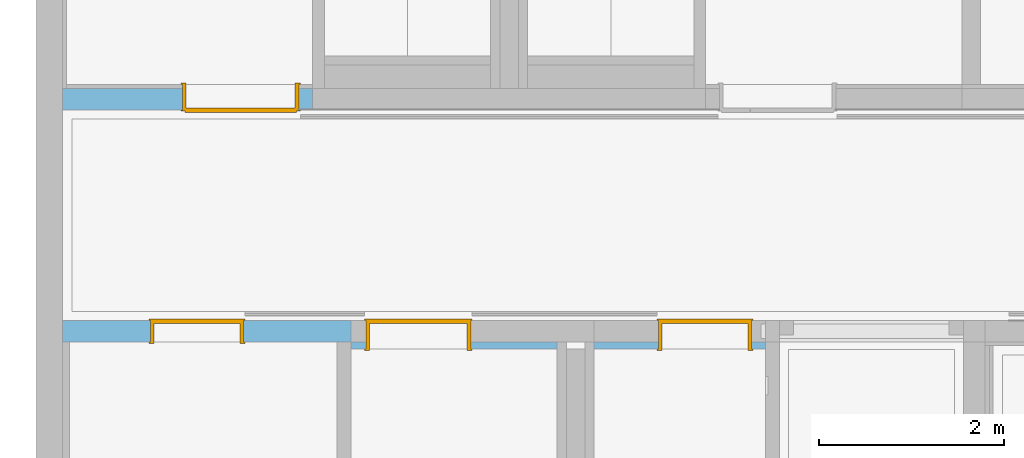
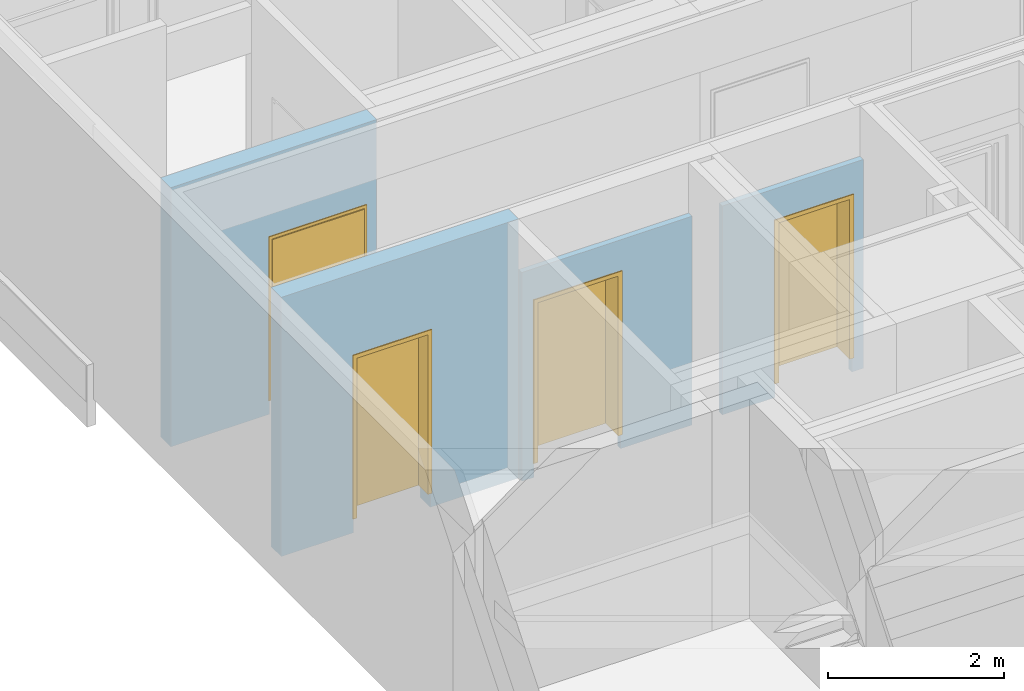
# One storey, part 79 of 207: 4 doors, 4 openings, plus 4 elements that do not belong to this part.
"""IFC4 building model written with IfcOpenShell, lengths in metres."""

from ifc_helpers import new_model, entity, si_unit, converted_unit, derived_unit, frame, frame_2d, origin, origin_with_axes, place, context, subcontext, project, spatial, polyline, rectangle, outline, extrude, faceted_brep, source, transform, mapped, material, type_object, element, fill, save


model = new_model("IFC4")

# Units and contexts
model_context = context("Model", 3, precision=1e-05, world=origin())
body_context = subcontext(model_context, "Body", "Model", "MODEL_VIEW")
ifc_project = project(units=[si_unit("LENGTHUNIT", "METRE"), si_unit("AREAUNIT", "SQUARE_METRE"), si_unit("VOLUMEUNIT", "CUBIC_METRE"), si_unit("MASSUNIT", "GRAM", prefix="KILO"), converted_unit("PLANEANGLEUNIT", "DEGREE", entity("IfcPlaneAngleMeasure", 0.0174532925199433), si_unit("PLANEANGLEUNIT", "RADIAN"), dimensions=[0, 0, 0, 0, 0, 0, 0]), derived_unit("THERMALTRANSMITTANCEUNIT", [(si_unit("POWERUNIT", "WATT"), 1), (si_unit("THERMODYNAMICTEMPERATUREUNIT", "KELVIN"), -1), (si_unit("LENGTHUNIT", "METRE"), -2)]), derived_unit("VOLUMETRICFLOWRATEUNIT", [(si_unit("LENGTHUNIT", "METRE"), 3), (converted_unit("TIMEUNIT", "hour", entity("IfcTimeMeasure", 3600.0), si_unit("TIMEUNIT", "SECOND"), dimensions=[0, 0, 1, 0, 0, 0, 0]), -1), (si_unit("LENGTHUNIT", "METRE"), -1)])], contexts=[model_context])

# Site, building, storey
site_placement = place(None, origin())
site = spatial("IfcSite", under=ifc_project, at=site_placement, Name="Psychiatrie Neubau Wunstorf", CompositionType="ELEMENT")
building_placement = place(site_placement, origin())
building = spatial("IfcBuilding", under=site, at=building_placement, Name="Neubau H2 Stationsgebäude", CompositionType="ELEMENT")
storey_placement = place(building_placement, frame((0.0, 0.0, -0.2)))
storey = spatial("IfcBuildingStorey", under=building, at=storey_placement, Name="H2 Ebene 0", CompositionType="ELEMENT", Elevation=-0.2)

# Wall, opening, door
ifc_material_1 = material(Name="WI-HW 60")
wall_1_placement = place(storey_placement, frame((0.169, 21.604, 0.0)))
wall_1 = element("IfcWall", 1, at=wall_1_placement, inside=storey, material=ifc_material_1, context=body_context, shape_type="SweptSolid", body=[
    extrude(rectangle(XDim=3.12000622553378, YDim=0.232, at=frame_2d((1.56000311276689, 0.116), x_axis=(1.0, 0.0))), origin_with_axes(), (0.0, 0.0, 1.0), 3.6),
])
opening_1_placement = place(wall_1_placement, frame((0.948454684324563, 0.0, 0.0), z_axis=(0.0, 1.0, 0.0), x_axis=(0.0, 0.0, 1.0)))
opening_1 = element("IfcOpeningElement", 2, at=opening_1_placement, cuts=wall_1, Name="SMT", ObjectType="Opening", context=body_context, shape_type="SweptSolid", body=[
    extrude(outline(polyline([(2.46, 1.01), (2.46, 0.0), (0.0, 0.0), (0.0, 1.01), (2.46, 1.01)])), origin_with_axes(), (0.0, 0.0, 1.0), 0.232),
])
ifc_material_2 = material(Name="TI-1F-UZ-ZK")
door_type_1 = type_object("IfcDoorType", Name="SMT", OperationType="SINGLE_SWING_RIGHT", ParameterTakesPrecedence=False, PredefinedType="DOOR")
shared_shape_1 = source(origin_with_axes(), body_context, "Body", "Brep", [
    faceted_brep([(0.0, -0.015, 2.46), (0.04, -0.015, 2.46), (0.04, -0.015, 0.2), (0.0, -0.015, 0.2), (0.0, 0.247, 0.2), (0.04, 0.247, 0.2), (0.04, 0.247, 2.46), (0.0, 0.247, 2.46)], [[[0, 1, 2, 3]], [[4, 5, 6, 7]], [[3, 4, 7, 0]], [[2, 5, 4, 3]], [[1, 6, 5, 2]], [[0, 7, 6, 1]]], orient=[[False], [False], [False], [False], [False], [False]]),
    faceted_brep([(0.0, -0.015, 2.475), (0.0, -0.015, 0.2), (-0.015, -0.015, 0.2), (-0.015, -0.015, 2.475), (0.0, 0.0, 0.2), (0.0, 0.0, 2.475), (-0.015, 0.0, 2.475), (-0.015, 0.0, 0.2)], [[[0, 1, 2, 3]], [[4, 5, 6, 7]], [[1, 0, 5, 4]], [[2, 1, 4, 7]], [[3, 2, 7, 6]], [[0, 3, 6, 5]]], orient=[[False], [False], [False], [False], [False], [False]]),
    faceted_brep([(0.0, 0.232, 2.475), (0.0, 0.232, 0.2), (-0.015, 0.232, 0.2), (-0.015, 0.232, 2.475), (0.0, 0.247, 0.2), (0.0, 0.247, 2.475), (-0.015, 0.247, 2.475), (-0.015, 0.247, 0.2)], [[[0, 1, 2, 3]], [[4, 5, 6, 7]], [[1, 0, 5, 4]], [[2, 1, 4, 7]], [[3, 2, 7, 6]], [[0, 3, 6, 5]]], orient=[[False], [False], [False], [False], [False], [False]]),
    faceted_brep([(0.97, -0.015, 2.46), (1.01, -0.015, 2.46), (1.01, -0.015, 0.2), (0.97, -0.015, 0.2), (0.97, 0.247, 0.2), (1.01, 0.247, 0.2), (1.01, 0.247, 2.46), (0.97, 0.247, 2.46)], [[[0, 1, 2, 3]], [[4, 5, 6, 7]], [[3, 4, 7, 0]], [[2, 5, 4, 3]], [[1, 6, 5, 2]], [[0, 7, 6, 1]]], orient=[[False], [False], [False], [False], [False], [False]]),
    faceted_brep([(1.01, -0.015, 2.475), (1.025, -0.015, 2.475), (1.025, -0.015, 0.2), (1.01, -0.015, 0.2), (1.01, 0.0, 0.2), (1.025, 0.0, 0.2), (1.025, 0.0, 2.475), (1.01, 0.0, 2.475)], [[[0, 1, 2, 3]], [[4, 5, 6, 7]], [[3, 4, 7, 0]], [[2, 5, 4, 3]], [[1, 6, 5, 2]], [[0, 7, 6, 1]]], orient=[[False], [False], [False], [False], [False], [False]]),
    faceted_brep([(1.01, 0.232, 2.475), (1.025, 0.232, 2.475), (1.025, 0.232, 0.2), (1.01, 0.232, 0.2), (1.01, 0.247, 0.2), (1.025, 0.247, 0.2), (1.025, 0.247, 2.475), (1.01, 0.247, 2.475)], [[[0, 1, 2, 3]], [[4, 5, 6, 7]], [[3, 4, 7, 0]], [[2, 5, 4, 3]], [[1, 6, 5, 2]], [[0, 7, 6, 1]]], orient=[[False], [False], [False], [False], [False], [False]]),
    faceted_brep([(0.04, -0.015, 2.46), (0.97, -0.015, 2.46), (0.97, -0.015, 2.42), (0.04, -0.015, 2.42), (0.04, 0.247, 2.42), (0.97, 0.247, 2.42), (0.97, 0.247, 2.46), (0.04, 0.247, 2.46)], [[[0, 1, 2, 3]], [[4, 5, 6, 7]], [[3, 4, 7, 0]], [[2, 5, 4, 3]], [[1, 6, 5, 2]], [[0, 7, 6, 1]]], orient=[[False], [False], [False], [False], [False], [False]]),
    faceted_brep([(0.0, -0.015, 2.475), (1.01, -0.015, 2.475), (1.01, -0.015, 2.46), (0.0, -0.015, 2.46), (0.0, 0.0, 2.46), (1.01, 0.0, 2.46), (1.01, 0.0, 2.475), (0.0, 0.0, 2.475)], [[[0, 1, 2, 3]], [[4, 5, 6, 7]], [[3, 4, 7, 0]], [[2, 5, 4, 3]], [[1, 6, 5, 2]], [[0, 7, 6, 1]]], orient=[[False], [False], [False], [False], [False], [False]]),
    faceted_brep([(0.0, 0.232, 2.475), (1.01, 0.232, 2.475), (1.01, 0.232, 2.46), (0.0, 0.232, 2.46), (0.0, 0.247, 2.46), (1.01, 0.247, 2.46), (1.01, 0.247, 2.475), (0.0, 0.247, 2.475)], [[[0, 1, 2, 3]], [[4, 5, 6, 7]], [[3, 4, 7, 0]], [[2, 5, 4, 3]], [[1, 6, 5, 2]], [[0, 7, 6, 1]]], orient=[[False], [False], [False], [False], [False], [False]]),
    faceted_brep([(0.025, 0.198, 2.435), (0.985, 0.198, 2.435), (0.985, 0.198, 0.2), (0.025, 0.198, 0.2), (0.025, 0.248, 0.2), (0.985, 0.248, 0.2), (0.985, 0.248, 2.435), (0.025, 0.248, 2.435)], [[[0, 1, 2, 3]], [[4, 5, 6, 7]], [[3, 4, 7, 0]], [[2, 5, 4, 3]], [[1, 6, 5, 2]], [[0, 7, 6, 1]]], orient=[[False], [False], [False], [False], [False], [False]]),
])
door_1_placement = place(opening_1_placement, frame((0.0, 0.0, 0.0), z_axis=(1.0, 0.0, 0.0), x_axis=(0.0, 1.0, 0.0)))
door_1 = element("IfcDoor", 3, at=door_1_placement, inside=storey, type_object=door_type_1, material=ifc_material_2, Name="SMT", OverallHeight=2.46, OverallWidth=1.01, context=body_context, shape_type="MappedRepresentation", body=[
    mapped(shared_shape_1, transform((0.0, 0.0, 0.0), x_axis=(1.0, 0.0, 0.0), y_axis=(0.0, 1.0, 0.0), z_axis=(0.0, 0.0, 1.0), scale=1.0)),
])
fill(opening_1, door_1)

ifc_material_3 = material(Name="WI-HW 60")
wall_2_placement = place(storey_placement, frame((0.169, 24.1175, 0.0), z_axis=(0.0, 0.0, 1.0), x_axis=(1.0, 2.6888239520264e-15, 0.0)))
wall_2 = element("IfcWall", 4, at=wall_2_placement, inside=storey, material=ifc_material_3, context=body_context, shape_type="SweptSolid", body=[
    extrude(rectangle(XDim=2.706, YDim=0.232, at=frame_2d((1.353, 0.116), x_axis=(1.0, 0.0))), origin_with_axes(), (0.0, 0.0, 1.0), 3.6),
])
opening_2_placement = place(wall_2_placement, frame((1.296, 0.0, 0.0), z_axis=(2.940176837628e-15, 1.0, 0.0), x_axis=(0.0, 0.0, 1.0)))
opening_2 = element("IfcOpeningElement", 5, at=opening_2_placement, cuts=wall_2, Name="Türöffnung", ObjectType="Opening", context=body_context, shape_type="SweptSolid", body=[
    extrude(outline(polyline([(2.46, 1.26), (2.46, 0.0), (0.0, 0.0), (0.0, 1.26), (2.46, 1.26)])), origin_with_axes(), (0.0, 0.0, 1.0), 0.232),
])
ifc_material_4 = material(Name="TI-2F-UZ-D")
door_type_2 = type_object("IfcDoorType", Name="SMT", OperationType="DOUBLE_DOOR_SINGLE_SWING", ParameterTakesPrecedence=False, PredefinedType="DOOR")
shared_shape_2 = source(origin_with_axes(), body_context, "Body", "Brep", [
    faceted_brep([(1.26, -0.0150000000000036, 2.46), (1.26, -0.0150000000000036, 0.2), (1.22, -0.0150000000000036, 0.2), (1.22, -0.0150000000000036, 2.46), (1.26, 0.287, 0.2), (1.26, 0.287, 2.46), (1.22, 0.287, 2.46), (1.22, 0.287, 0.2)], [[[0, 1, 2, 3]], [[4, 5, 6, 7]], [[1, 0, 5, 4]], [[2, 1, 4, 7]], [[3, 2, 7, 6]], [[0, 3, 6, 5]]], orient=[[False], [False], [False], [False], [False], [False]]),
    faceted_brep([(1.26, -0.0150000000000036, 2.475), (1.275, -0.0150000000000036, 2.475), (1.275, -0.0150000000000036, 0.2), (1.26, -0.0150000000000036, 0.2), (1.26, 0.0, 0.2), (1.275, 0.0, 0.2), (1.275, 0.0, 2.475), (1.26, 0.0, 2.475)], [[[0, 1, 2, 3]], [[4, 5, 6, 7]], [[3, 4, 7, 0]], [[2, 5, 4, 3]], [[1, 6, 5, 2]], [[0, 7, 6, 1]]], orient=[[False], [False], [False], [False], [False], [False]]),
    faceted_brep([(1.26, 0.272, 2.475), (1.275, 0.272, 2.475), (1.275, 0.272, 0.2), (1.26, 0.272, 0.2), (1.26, 0.287, 0.2), (1.275, 0.287, 0.2), (1.275, 0.287, 2.475), (1.26, 0.287, 2.475)], [[[0, 1, 2, 3]], [[4, 5, 6, 7]], [[3, 4, 7, 0]], [[2, 5, 4, 3]], [[1, 6, 5, 2]], [[0, 7, 6, 1]]], orient=[[False], [False], [False], [False], [False], [False]]),
    faceted_brep([(0.04, -0.015, 2.46), (0.04, -0.015, 0.2), (0.0, -0.015, 0.2), (0.0, -0.015, 2.46), (0.0400000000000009, 0.287000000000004, 0.2), (0.0400000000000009, 0.287000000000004, 2.46), (0.0, 0.287000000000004, 2.46), (0.0, 0.287000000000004, 0.2)], [[[0, 1, 2, 3]], [[4, 5, 6, 7]], [[1, 0, 5, 4]], [[2, 1, 4, 7]], [[3, 2, 7, 6]], [[0, 3, 6, 5]]], orient=[[False], [False], [False], [False], [False], [False]]),
    faceted_brep([(0.0, -0.015, 2.475), (0.0, -0.015, 0.2), (-0.015, -0.015, 0.2), (-0.015, -0.015, 2.475), (0.0, 0.0, 0.2), (0.0, 0.0, 2.475), (-0.015, 0.0, 2.475), (-0.015, 0.0, 0.2)], [[[0, 1, 2, 3]], [[4, 5, 6, 7]], [[1, 0, 5, 4]], [[2, 1, 4, 7]], [[3, 2, 7, 6]], [[0, 3, 6, 5]]], orient=[[False], [False], [False], [False], [False], [False]]),
    faceted_brep([(0.0, 0.272000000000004, 2.475), (0.0, 0.272000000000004, 0.2), (-0.0149999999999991, 0.272000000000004, 0.2), (-0.0149999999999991, 0.272000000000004, 2.475), (0.0, 0.287000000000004, 0.2), (0.0, 0.287000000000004, 2.475), (-0.0149999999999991, 0.287000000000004, 2.475), (-0.0149999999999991, 0.287000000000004, 0.2)], [[[0, 1, 2, 3]], [[4, 5, 6, 7]], [[1, 0, 5, 4]], [[2, 1, 4, 7]], [[3, 2, 7, 6]], [[0, 3, 6, 5]]], orient=[[False], [False], [False], [False], [False], [False]]),
    faceted_brep([(1.22, -0.0150000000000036, 2.46), (1.22, -0.0150000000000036, 2.42), (0.04, -0.015, 2.42), (0.04, -0.015, 2.46), (1.22, 0.287, 2.42), (1.22, 0.287, 2.46), (0.0400000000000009, 0.287000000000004, 2.46), (0.0400000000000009, 0.287000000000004, 2.42)], [[[0, 1, 2, 3]], [[4, 5, 6, 7]], [[1, 0, 5, 4]], [[2, 1, 4, 7]], [[3, 2, 7, 6]], [[0, 3, 6, 5]]], orient=[[False], [False], [False], [False], [False], [False]]),
    faceted_brep([(1.26, -0.0150000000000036, 2.475), (1.26, -0.0150000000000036, 2.46), (0.0, -0.015, 2.46), (0.0, -0.015, 2.475), (1.26, 0.0, 2.46), (1.26, 0.0, 2.475), (0.0, 0.0, 2.475), (0.0, 0.0, 2.46)], [[[0, 1, 2, 3]], [[4, 5, 6, 7]], [[1, 0, 5, 4]], [[2, 1, 4, 7]], [[3, 2, 7, 6]], [[0, 3, 6, 5]]], orient=[[False], [False], [False], [False], [False], [False]]),
    faceted_brep([(1.26, 0.272, 2.475), (1.26, 0.272, 2.46), (0.0, 0.272000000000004, 2.46), (0.0, 0.272000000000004, 2.475), (1.26, 0.287, 2.46), (1.26, 0.287, 2.475), (0.0, 0.287000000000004, 2.475), (0.0, 0.287000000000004, 2.46)], [[[0, 1, 2, 3]], [[4, 5, 6, 7]], [[1, 0, 5, 4]], [[2, 1, 4, 7]], [[3, 2, 7, 6]], [[0, 3, 6, 5]]], orient=[[False], [False], [False], [False], [False], [False]]),
    faceted_brep([(1.235, 0.252, 2.435), (1.235, 0.252, 0.2), (0.335000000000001, 0.252000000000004, 0.2), (0.335000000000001, 0.252000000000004, 2.435), (1.235, 0.302, 0.2), (1.235, 0.302, 2.435), (0.335000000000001, 0.302000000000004, 2.435), (0.335000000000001, 0.302000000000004, 0.2)], [[[0, 1, 2, 3]], [[4, 5, 6, 7]], [[1, 0, 5, 4]], [[2, 1, 4, 7]], [[3, 2, 7, 6]], [[0, 3, 6, 5]]], orient=[[False], [False], [False], [False], [False], [False]]),
    faceted_brep([(0.334000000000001, 0.252000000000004, 2.435), (0.334000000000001, 0.252000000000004, 0.2), (0.0250000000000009, 0.252000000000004, 0.2), (0.0250000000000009, 0.252000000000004, 2.435), (0.334000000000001, 0.302000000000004, 0.2), (0.334000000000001, 0.302000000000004, 2.435), (0.0250000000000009, 0.302000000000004, 2.435), (0.0250000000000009, 0.302000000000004, 0.2)], [[[0, 1, 2, 3]], [[4, 5, 6, 7]], [[1, 0, 5, 4]], [[2, 1, 4, 7]], [[3, 2, 7, 6]], [[0, 3, 6, 5]]], orient=[[False], [False], [False], [False], [False], [False]]),
])
door_2_placement = place(opening_2_placement, frame((0.0, 1.26, 0.272000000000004), z_axis=(1.0, 0.0, 0.0), x_axis=(0.0, -1.0, -3.13863765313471e-15)))
door_2 = element("IfcDoor", 6, at=door_2_placement, inside=storey, type_object=door_type_2, material=ifc_material_4, Name="SMT", OverallHeight=2.46, OverallWidth=1.26, context=body_context, shape_type="MappedRepresentation", body=[
    mapped(shared_shape_2, transform((0.0, 0.0, 0.0), x_axis=(1.0, 0.0, 0.0), y_axis=(0.0, 1.0, 0.0), z_axis=(0.0, 0.0, 1.0), scale=1.0)),
])
fill(opening_2, door_2)

ifc_material_5 = material(Name="WI-LB")
wall_3_placement = place(storey_placement, frame((3.28900622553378, 21.529, 0.0)))
wall_3 = element("IfcWall", 7, at=wall_3_placement, inside=storey, material=ifc_material_5, context=body_context, shape_type="SweptSolid", body=[
    extrude(rectangle(XDim=2.23150193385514, YDim=0.075, at=frame_2d((1.11575096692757, 0.0375), x_axis=(1.0, 0.0))), origin_with_axes(), (0.0, 0.0, 1.0), 2.9),
])
opening_3_placement = place(wall_3_placement, frame((0.161, 0.0, 0.0), z_axis=(0.0, 1.0, 0.0), x_axis=(0.0, 0.0, 1.0)))
opening_3 = element("IfcOpeningElement", 8, at=opening_3_placement, cuts=wall_3, Name="Türöffnung", ObjectType="Opening", context=body_context, shape_type="SweptSolid", body=[
    extrude(outline(polyline([(2.46, 1.135), (2.46, 0.0), (0.0, 0.0), (0.0, 1.135), (2.46, 1.135)])), origin_with_axes(), (0.0, 0.0, 1.0), 0.075),
])
ifc_material_6 = material(Name="TI-1F-UZ-ZK")
door_type_3 = type_object("IfcDoorType", Name="SMT", OperationType="SINGLE_SWING_RIGHT", ParameterTakesPrecedence=False, PredefinedType="DOOR")
shared_shape_3 = source(origin_with_axes(), body_context, "Body", "Brep", [
    faceted_brep([(0.0, -0.015, 2.46), (0.04, -0.015, 2.46), (0.04, -0.015, 0.2), (0.0, -0.015, 0.2), (0.0, 0.322, 0.2), (0.04, 0.322, 0.2), (0.04, 0.322, 2.46), (0.0, 0.322, 2.46)], [[[0, 1, 2, 3]], [[4, 5, 6, 7]], [[3, 4, 7, 0]], [[2, 5, 4, 3]], [[1, 6, 5, 2]], [[0, 7, 6, 1]]], orient=[[False], [False], [False], [False], [False], [False]]),
    faceted_brep([(0.0, -0.015, 2.475), (0.0, -0.015, 0.2), (-0.015, -0.015, 0.2), (-0.015, -0.015, 2.475), (0.0, 0.0, 0.2), (0.0, 0.0, 2.475), (-0.015, 0.0, 2.475), (-0.015, 0.0, 0.2)], [[[0, 1, 2, 3]], [[4, 5, 6, 7]], [[1, 0, 5, 4]], [[2, 1, 4, 7]], [[3, 2, 7, 6]], [[0, 3, 6, 5]]], orient=[[False], [False], [False], [False], [False], [False]]),
    faceted_brep([(0.0, 0.307, 2.475), (0.0, 0.307, 0.2), (-0.015, 0.307, 0.2), (-0.015, 0.307, 2.475), (0.0, 0.322, 0.2), (0.0, 0.322, 2.475), (-0.015, 0.322, 2.475), (-0.015, 0.322, 0.2)], [[[0, 1, 2, 3]], [[4, 5, 6, 7]], [[1, 0, 5, 4]], [[2, 1, 4, 7]], [[3, 2, 7, 6]], [[0, 3, 6, 5]]], orient=[[False], [False], [False], [False], [False], [False]]),
    faceted_brep([(1.095, -0.015, 2.46), (1.135, -0.015, 2.46), (1.135, -0.015, 0.2), (1.095, -0.015, 0.2), (1.095, 0.322, 0.2), (1.135, 0.322, 0.2), (1.135, 0.322, 2.46), (1.095, 0.322, 2.46)], [[[0, 1, 2, 3]], [[4, 5, 6, 7]], [[3, 4, 7, 0]], [[2, 5, 4, 3]], [[1, 6, 5, 2]], [[0, 7, 6, 1]]], orient=[[False], [False], [False], [False], [False], [False]]),
    faceted_brep([(1.135, -0.015, 2.475), (1.15, -0.015, 2.475), (1.15, -0.015, 0.2), (1.135, -0.015, 0.2), (1.135, 0.0, 0.2), (1.15, 0.0, 0.2), (1.15, 0.0, 2.475), (1.135, 0.0, 2.475)], [[[0, 1, 2, 3]], [[4, 5, 6, 7]], [[3, 4, 7, 0]], [[2, 5, 4, 3]], [[1, 6, 5, 2]], [[0, 7, 6, 1]]], orient=[[False], [False], [False], [False], [False], [False]]),
    faceted_brep([(1.135, 0.307, 2.475), (1.15, 0.307, 2.475), (1.15, 0.307, 0.2), (1.135, 0.307, 0.2), (1.135, 0.322, 0.2), (1.15, 0.322, 0.2), (1.15, 0.322, 2.475), (1.135, 0.322, 2.475)], [[[0, 1, 2, 3]], [[4, 5, 6, 7]], [[3, 4, 7, 0]], [[2, 5, 4, 3]], [[1, 6, 5, 2]], [[0, 7, 6, 1]]], orient=[[False], [False], [False], [False], [False], [False]]),
    faceted_brep([(0.04, -0.015, 2.46), (1.095, -0.015, 2.46), (1.095, -0.015, 2.42), (0.04, -0.015, 2.42), (0.04, 0.322, 2.42), (1.095, 0.322, 2.42), (1.095, 0.322, 2.46), (0.04, 0.322, 2.46)], [[[0, 1, 2, 3]], [[4, 5, 6, 7]], [[3, 4, 7, 0]], [[2, 5, 4, 3]], [[1, 6, 5, 2]], [[0, 7, 6, 1]]], orient=[[False], [False], [False], [False], [False], [False]]),
    faceted_brep([(0.0, -0.015, 2.475), (1.135, -0.015, 2.475), (1.135, -0.015, 2.46), (0.0, -0.015, 2.46), (0.0, 0.0, 2.46), (1.135, 0.0, 2.46), (1.135, 0.0, 2.475), (0.0, 0.0, 2.475)], [[[0, 1, 2, 3]], [[4, 5, 6, 7]], [[3, 4, 7, 0]], [[2, 5, 4, 3]], [[1, 6, 5, 2]], [[0, 7, 6, 1]]], orient=[[False], [False], [False], [False], [False], [False]]),
    faceted_brep([(0.0, 0.307, 2.475), (1.135, 0.307, 2.475), (1.135, 0.307, 2.46), (0.0, 0.307, 2.46), (0.0, 0.322, 2.46), (1.135, 0.322, 2.46), (1.135, 0.322, 2.475), (0.0, 0.322, 2.475)], [[[0, 1, 2, 3]], [[4, 5, 6, 7]], [[3, 4, 7, 0]], [[2, 5, 4, 3]], [[1, 6, 5, 2]], [[0, 7, 6, 1]]], orient=[[False], [False], [False], [False], [False], [False]]),
    faceted_brep([(0.025, 0.273, 2.435), (1.11, 0.273, 2.435), (1.11, 0.273, 0.2), (0.025, 0.273, 0.2), (0.025, 0.323, 0.2), (1.11, 0.323, 0.2), (1.11, 0.323, 2.435), (0.025, 0.323, 2.435)], [[[0, 1, 2, 3]], [[4, 5, 6, 7]], [[3, 4, 7, 0]], [[2, 5, 4, 3]], [[1, 6, 5, 2]], [[0, 7, 6, 1]]], orient=[[False], [False], [False], [False], [False], [False]]),
])
door_3_placement = place(opening_3_placement, frame((0.0, 0.0, 0.0), z_axis=(1.0, 0.0, 0.0), x_axis=(0.0, 1.0, 0.0)))
door_3 = element("IfcDoor", 9, at=door_3_placement, inside=storey, type_object=door_type_3, material=ifc_material_6, Name="SMT", OverallHeight=2.46, OverallWidth=1.135, context=body_context, shape_type="MappedRepresentation", body=[
    mapped(shared_shape_3, transform((0.0, 0.0, 0.0), x_axis=(1.0, 0.0, 0.0), y_axis=(0.0, 1.0, 0.0), z_axis=(0.0, 0.0, 1.0), scale=1.0)),
])
fill(opening_3, door_3)

ifc_material_7 = material(Name="WI-LB")
wall_4_placement = place(storey_placement, frame((5.92050815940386, 21.529, 0.0)))
wall_4 = element("IfcWall", 10, at=wall_4_placement, inside=storey, material=ifc_material_7, context=body_context, shape_type="SweptSolid", body=[
    extrude(rectangle(XDim=1.85448534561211, YDim=0.075, at=frame_2d((0.927242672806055, 0.0375), x_axis=(1.0, 0.0))), origin_with_axes(), (0.0, 0.0, 1.0), 2.9),
])
opening_4_placement = place(wall_4_placement, frame((0.694485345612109, 0.0, 0.0), z_axis=(0.0, 1.0, 0.0), x_axis=(0.0, 0.0, 1.0)))
opening_4 = element("IfcOpeningElement", 11, at=opening_4_placement, cuts=wall_4, Name="Türöffnung", ObjectType="Opening", context=body_context, shape_type="SweptSolid", body=[
    extrude(outline(polyline([(2.46, 1.01), (2.46, 0.0), (0.0, 0.0), (0.0, 1.01), (2.46, 1.01)])), origin_with_axes(), (0.0, 0.0, 1.0), 0.075),
])
ifc_material_8 = material(Name="TI-1F-UZ-ZK")
door_type_4 = type_object("IfcDoorType", Name="SMT", OperationType="SINGLE_SWING_RIGHT", ParameterTakesPrecedence=False, PredefinedType="DOOR")
shared_shape_4 = source(origin_with_axes(), body_context, "Body", "Brep", [
    faceted_brep([(1.01, -0.015, 2.46), (1.01, -0.015, 0.2), (0.97, -0.015, 0.2), (0.97, -0.015, 2.46), (1.01, 0.322, 0.2), (1.01, 0.322, 2.46), (0.97, 0.322, 2.46), (0.97, 0.322, 0.2)], [[[0, 1, 2, 3]], [[4, 5, 6, 7]], [[1, 0, 5, 4]], [[2, 1, 4, 7]], [[3, 2, 7, 6]], [[0, 3, 6, 5]]], orient=[[False], [False], [False], [False], [False], [False]]),
    faceted_brep([(1.01, -0.015, 2.475), (1.025, -0.015, 2.475), (1.025, -0.015, 0.2), (1.01, -0.015, 0.2), (1.01, 0.0, 0.2), (1.025, 0.0, 0.2), (1.025, 0.0, 2.475), (1.01, 0.0, 2.475)], [[[0, 1, 2, 3]], [[4, 5, 6, 7]], [[3, 4, 7, 0]], [[2, 5, 4, 3]], [[1, 6, 5, 2]], [[0, 7, 6, 1]]], orient=[[False], [False], [False], [False], [False], [False]]),
    faceted_brep([(1.01, 0.307, 2.475), (1.025, 0.307, 2.475), (1.025, 0.307, 0.2), (1.01, 0.307, 0.2), (1.01, 0.322, 0.2), (1.025, 0.322, 0.2), (1.025, 0.322, 2.475), (1.01, 0.322, 2.475)], [[[0, 1, 2, 3]], [[4, 5, 6, 7]], [[3, 4, 7, 0]], [[2, 5, 4, 3]], [[1, 6, 5, 2]], [[0, 7, 6, 1]]], orient=[[False], [False], [False], [False], [False], [False]]),
    faceted_brep([(0.04, -0.015, 2.46), (0.04, -0.015, 0.2), (0.0, -0.015, 0.2), (0.0, -0.015, 2.46), (0.04, 0.322, 0.2), (0.04, 0.322, 2.46), (0.0, 0.322, 2.46), (0.0, 0.322, 0.2)], [[[0, 1, 2, 3]], [[4, 5, 6, 7]], [[1, 0, 5, 4]], [[2, 1, 4, 7]], [[3, 2, 7, 6]], [[0, 3, 6, 5]]], orient=[[False], [False], [False], [False], [False], [False]]),
    faceted_brep([(0.0, -0.015, 2.475), (0.0, -0.015, 0.2), (-0.015, -0.015, 0.2), (-0.015, -0.015, 2.475), (0.0, 0.0, 0.2), (0.0, 0.0, 2.475), (-0.015, 0.0, 2.475), (-0.015, 0.0, 0.2)], [[[0, 1, 2, 3]], [[4, 5, 6, 7]], [[1, 0, 5, 4]], [[2, 1, 4, 7]], [[3, 2, 7, 6]], [[0, 3, 6, 5]]], orient=[[False], [False], [False], [False], [False], [False]]),
    faceted_brep([(0.0, 0.307, 2.475), (0.0, 0.307, 0.2), (-0.015, 0.307, 0.2), (-0.015, 0.307, 2.475), (0.0, 0.322, 0.2), (0.0, 0.322, 2.475), (-0.015, 0.322, 2.475), (-0.015, 0.322, 0.2)], [[[0, 1, 2, 3]], [[4, 5, 6, 7]], [[1, 0, 5, 4]], [[2, 1, 4, 7]], [[3, 2, 7, 6]], [[0, 3, 6, 5]]], orient=[[False], [False], [False], [False], [False], [False]]),
    faceted_brep([(0.97, -0.015, 2.46), (0.97, -0.015, 2.42), (0.04, -0.015, 2.42), (0.04, -0.015, 2.46), (0.97, 0.322, 2.42), (0.97, 0.322, 2.46), (0.04, 0.322, 2.46), (0.04, 0.322, 2.42)], [[[0, 1, 2, 3]], [[4, 5, 6, 7]], [[1, 0, 5, 4]], [[2, 1, 4, 7]], [[3, 2, 7, 6]], [[0, 3, 6, 5]]], orient=[[False], [False], [False], [False], [False], [False]]),
    faceted_brep([(1.01, -0.015, 2.475), (1.01, -0.015, 2.46), (0.0, -0.015, 2.46), (0.0, -0.015, 2.475), (1.01, 0.0, 2.46), (1.01, 0.0, 2.475), (0.0, 0.0, 2.475), (0.0, 0.0, 2.46)], [[[0, 1, 2, 3]], [[4, 5, 6, 7]], [[1, 0, 5, 4]], [[2, 1, 4, 7]], [[3, 2, 7, 6]], [[0, 3, 6, 5]]], orient=[[False], [False], [False], [False], [False], [False]]),
    faceted_brep([(1.01, 0.307, 2.475), (1.01, 0.307, 2.46), (0.0, 0.307, 2.46), (0.0, 0.307, 2.475), (1.01, 0.322, 2.46), (1.01, 0.322, 2.475), (0.0, 0.322, 2.475), (0.0, 0.322, 2.46)], [[[0, 1, 2, 3]], [[4, 5, 6, 7]], [[1, 0, 5, 4]], [[2, 1, 4, 7]], [[3, 2, 7, 6]], [[0, 3, 6, 5]]], orient=[[False], [False], [False], [False], [False], [False]]),
    faceted_brep([(0.985, 0.273, 2.435), (0.985, 0.273, 0.2), (0.025, 0.273, 0.2), (0.025, 0.273, 2.435), (0.985, 0.323, 0.2), (0.985, 0.323, 2.435), (0.025, 0.323, 2.435), (0.025, 0.323, 0.2)], [[[0, 1, 2, 3]], [[4, 5, 6, 7]], [[1, 0, 5, 4]], [[2, 1, 4, 7]], [[3, 2, 7, 6]], [[0, 3, 6, 5]]], orient=[[False], [False], [False], [False], [False], [False]]),
])
door_4_placement = place(opening_4_placement, frame((0.0, 0.0, 0.0), z_axis=(1.0, 0.0, 0.0), x_axis=(0.0, 1.0, 0.0)))
door_4 = element("IfcDoor", 12, at=door_4_placement, inside=storey, type_object=door_type_4, material=ifc_material_8, Name="SMT", OverallHeight=2.46, OverallWidth=1.01, context=body_context, shape_type="MappedRepresentation", body=[
    mapped(shared_shape_4, transform((0.0, 0.0, 0.0), x_axis=(1.0, 0.0, 0.0), y_axis=(0.0, 1.0, 0.0), z_axis=(0.0, 0.0, 1.0), scale=1.0)),
])
fill(opening_4, door_4)

save(model, "model.ifc")
